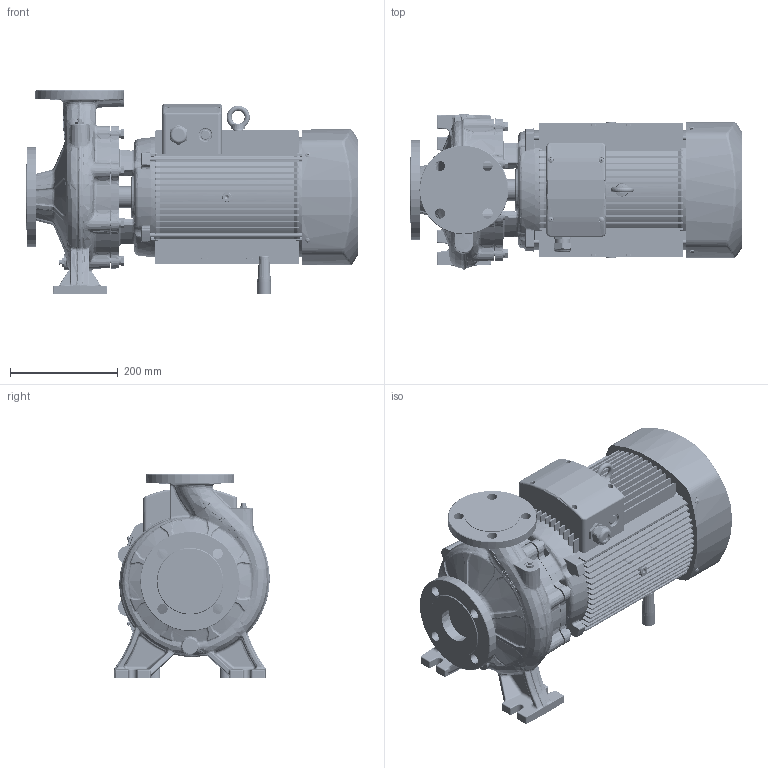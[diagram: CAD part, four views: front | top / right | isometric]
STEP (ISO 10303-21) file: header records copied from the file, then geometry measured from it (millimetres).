
FILE_DESCRIPTION (( 'STEP AP203' ), '1' );
FILE_NAME ('TST50-200-11 15 安装尺寸图.STEP', '2026-04-28T09:07:51', ( '微软用户' ), ( '微软中国' ), 'SwSTEP 2.0', 'SolidWorks 2020', '' );
FILE_SCHEMA (( 'CONFIG_CONTROL_DESIGN' ));
Products named in the file (1): TST50-200-11 15 假蚾喜渡芞
Bounding box: 617 x 289.05 x 380.58 mm (x, y, z)
Volume: 26449671.8 mm3; surface area: 1539816.4 mm2
Topology: 1 solids, 3 shells, 4864 faces, 11933 edges, 7413 vertices
Faces by surface type: plane 1427, cylinder 1321, bspline 1179, torus 449, cone 396, sphere 92
Entity records: 186321 total; most frequent: CARTESIAN_POINT 79361, ORIENTED_EDGE 23794, DIRECTION 20638, EDGE_CURVE 11897, AXIS2_PLACEMENT_3D 8536, VERTEX_POINT 7413, EDGE_LOOP 5322, FACE_OUTER_BOUND 4864
